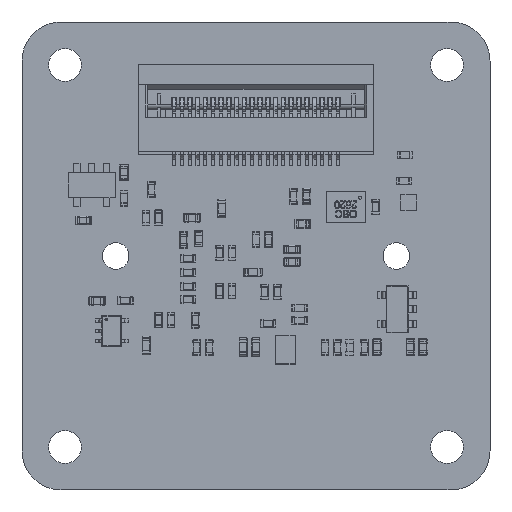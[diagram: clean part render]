
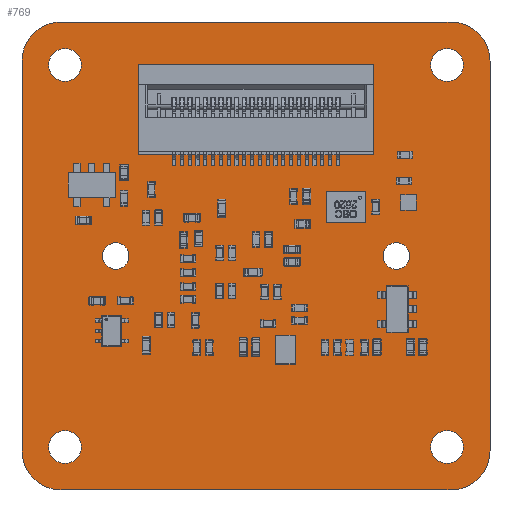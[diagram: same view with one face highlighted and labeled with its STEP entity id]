
A CAD part, top view. The second image highlights one B-rep face of the part: STEP entity #769.
In plain terms, the highlighted planar face has unit normal (0, 0, 1).
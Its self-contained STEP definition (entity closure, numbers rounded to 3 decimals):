
#288 = VERTEX_POINT('',#289);
#289 = CARTESIAN_POINT('',(0.,2.5,1.259));
#295 = EDGE_CURVE('',#288,#296,#298,.T.);
#296 = VERTEX_POINT('',#297);
#297 = CARTESIAN_POINT('',(-0.006,27.5,1.259));
#298 = LINE('',#299,#300);
#299 = CARTESIAN_POINT('',(0.,2.5,1.259));
#300 = VECTOR('',#301,1.);
#301 = DIRECTION('',(0.,1.,0.));
#326 = EDGE_CURVE('',#296,#327,#329,.T.);
#327 = VERTEX_POINT('',#328);
#328 = CARTESIAN_POINT('',(2.5,30.,1.259));
#329 = CIRCLE('',#330,2.496);
#330 = AXIS2_PLACEMENT_3D('',#331,#332,#333);
#331 = CARTESIAN_POINT('',(2.49,27.504,1.259));
#332 = DIRECTION('',(0.,0.,-1.));
#333 = DIRECTION('',(-1.,-0.002,0.));
#359 = EDGE_CURVE('',#327,#360,#362,.T.);
#360 = VERTEX_POINT('',#361);
#361 = CARTESIAN_POINT('',(27.5,30.,1.259));
#362 = LINE('',#363,#364);
#363 = CARTESIAN_POINT('',(2.5,30.,1.259));
#364 = VECTOR('',#365,1.);
#365 = DIRECTION('',(1.,0.,0.));
#390 = EDGE_CURVE('',#360,#391,#393,.T.);
#391 = VERTEX_POINT('',#392);
#392 = CARTESIAN_POINT('',(30.,27.5,1.259));
#393 = CIRCLE('',#394,2.499);
#394 = AXIS2_PLACEMENT_3D('',#395,#396,#397);
#395 = CARTESIAN_POINT('',(27.501,27.501,1.259));
#396 = DIRECTION('',(0.,0.,-1.));
#397 = DIRECTION('',(0.,1.,0.));
#423 = EDGE_CURVE('',#391,#424,#426,.T.);
#424 = VERTEX_POINT('',#425);
#425 = CARTESIAN_POINT('',(30.,2.5,1.259));
#426 = LINE('',#427,#428);
#427 = CARTESIAN_POINT('',(30.,27.5,1.259));
#428 = VECTOR('',#429,1.);
#429 = DIRECTION('',(0.,-1.,0.));
#454 = EDGE_CURVE('',#424,#455,#457,.T.);
#455 = VERTEX_POINT('',#456);
#456 = CARTESIAN_POINT('',(27.5,0.,1.259));
#457 = CIRCLE('',#458,2.499);
#458 = AXIS2_PLACEMENT_3D('',#459,#460,#461);
#459 = CARTESIAN_POINT('',(27.501,2.499,1.259));
#460 = DIRECTION('',(0.,0.,-1.));
#461 = DIRECTION('',(1.,0.,0.));
#487 = EDGE_CURVE('',#455,#488,#490,.T.);
#488 = VERTEX_POINT('',#489);
#489 = CARTESIAN_POINT('',(2.5,0.,1.259));
#490 = LINE('',#491,#492);
#491 = CARTESIAN_POINT('',(27.5,0.,1.259));
#492 = VECTOR('',#493,1.);
#493 = DIRECTION('',(-1.,0.,0.));
#518 = EDGE_CURVE('',#488,#288,#519,.T.);
#519 = CIRCLE('',#520,2.499);
#520 = AXIS2_PLACEMENT_3D('',#521,#522,#523);
#521 = CARTESIAN_POINT('',(2.499,2.499,1.259));
#522 = DIRECTION('',(0.,0.,-1.));
#523 = DIRECTION('',(0.,-1.,0.));
#544 = VERTEX_POINT('',#545);
#545 = CARTESIAN_POINT('',(3.8,2.75,1.259));
#551 = EDGE_CURVE('',#544,#544,#552,.T.);
#552 = CIRCLE('',#553,1.05);
#553 = AXIS2_PLACEMENT_3D('',#554,#555,#556);
#554 = CARTESIAN_POINT('',(2.75,2.75,1.259));
#555 = DIRECTION('',(0.,0.,1.));
#556 = DIRECTION('',(1.,0.,0.));
#577 = VERTEX_POINT('',#578);
#578 = CARTESIAN_POINT('',(3.8,27.25,1.259));
#584 = EDGE_CURVE('',#577,#577,#585,.T.);
#585 = CIRCLE('',#586,1.05);
#586 = AXIS2_PLACEMENT_3D('',#587,#588,#589);
#587 = CARTESIAN_POINT('',(2.75,27.25,1.259));
#588 = DIRECTION('',(0.,0.,1.));
#589 = DIRECTION('',(1.,0.,0.));
#610 = VERTEX_POINT('',#611);
#611 = CARTESIAN_POINT('',(6.85,15.,1.259));
#617 = EDGE_CURVE('',#610,#610,#618,.T.);
#618 = CIRCLE('',#619,0.85);
#619 = AXIS2_PLACEMENT_3D('',#620,#621,#622);
#620 = CARTESIAN_POINT('',(6.,15.,1.259));
#621 = DIRECTION('',(0.,0.,1.));
#622 = DIRECTION('',(1.,0.,0.));
#643 = VERTEX_POINT('',#644);
#644 = CARTESIAN_POINT('',(28.3,2.75,1.259));
#650 = EDGE_CURVE('',#643,#643,#651,.T.);
#651 = CIRCLE('',#652,1.05);
#652 = AXIS2_PLACEMENT_3D('',#653,#654,#655);
#653 = CARTESIAN_POINT('',(27.25,2.75,1.259));
#654 = DIRECTION('',(0.,0.,1.));
#655 = DIRECTION('',(1.,0.,0.));
#676 = VERTEX_POINT('',#677);
#677 = CARTESIAN_POINT('',(24.85,15.,1.259));
#683 = EDGE_CURVE('',#676,#676,#684,.T.);
#684 = CIRCLE('',#685,0.85);
#685 = AXIS2_PLACEMENT_3D('',#686,#687,#688);
#686 = CARTESIAN_POINT('',(24.,15.,1.259));
#687 = DIRECTION('',(0.,0.,1.));
#688 = DIRECTION('',(1.,0.,0.));
#709 = VERTEX_POINT('',#710);
#710 = CARTESIAN_POINT('',(28.3,27.25,1.259));
#716 = EDGE_CURVE('',#709,#709,#717,.T.);
#717 = CIRCLE('',#718,1.05);
#718 = AXIS2_PLACEMENT_3D('',#719,#720,#721);
#719 = CARTESIAN_POINT('',(27.25,27.25,1.259));
#720 = DIRECTION('',(0.,0.,1.));
#721 = DIRECTION('',(1.,0.,0.));
#769 = ADVANCED_FACE('',(#770,#780,#783,#786,#789,#792,#795),#798,.T.);
#770 = FACE_BOUND('',#771,.F.);
#771 = EDGE_LOOP('',(#772,#773,#774,#775,#776,#777,#778,#779));
#772 = ORIENTED_EDGE('',*,*,#295,.T.);
#773 = ORIENTED_EDGE('',*,*,#326,.T.);
#774 = ORIENTED_EDGE('',*,*,#359,.T.);
#775 = ORIENTED_EDGE('',*,*,#390,.T.);
#776 = ORIENTED_EDGE('',*,*,#423,.T.);
#777 = ORIENTED_EDGE('',*,*,#454,.T.);
#778 = ORIENTED_EDGE('',*,*,#487,.T.);
#779 = ORIENTED_EDGE('',*,*,#518,.T.);
#780 = FACE_BOUND('',#781,.T.);
#781 = EDGE_LOOP('',(#782));
#782 = ORIENTED_EDGE('',*,*,#551,.F.);
#783 = FACE_BOUND('',#784,.T.);
#784 = EDGE_LOOP('',(#785));
#785 = ORIENTED_EDGE('',*,*,#584,.F.);
#786 = FACE_BOUND('',#787,.T.);
#787 = EDGE_LOOP('',(#788));
#788 = ORIENTED_EDGE('',*,*,#617,.F.);
#789 = FACE_BOUND('',#790,.T.);
#790 = EDGE_LOOP('',(#791));
#791 = ORIENTED_EDGE('',*,*,#650,.F.);
#792 = FACE_BOUND('',#793,.T.);
#793 = EDGE_LOOP('',(#794));
#794 = ORIENTED_EDGE('',*,*,#683,.F.);
#795 = FACE_BOUND('',#796,.T.);
#796 = EDGE_LOOP('',(#797));
#797 = ORIENTED_EDGE('',*,*,#716,.F.);
#798 = PLANE('',#799);
#799 = AXIS2_PLACEMENT_3D('',#800,#801,#802);
#800 = CARTESIAN_POINT('',(0.,2.5,1.259));
#801 = DIRECTION('',(0.,0.,1.));
#802 = DIRECTION('',(1.,0.,0.));
